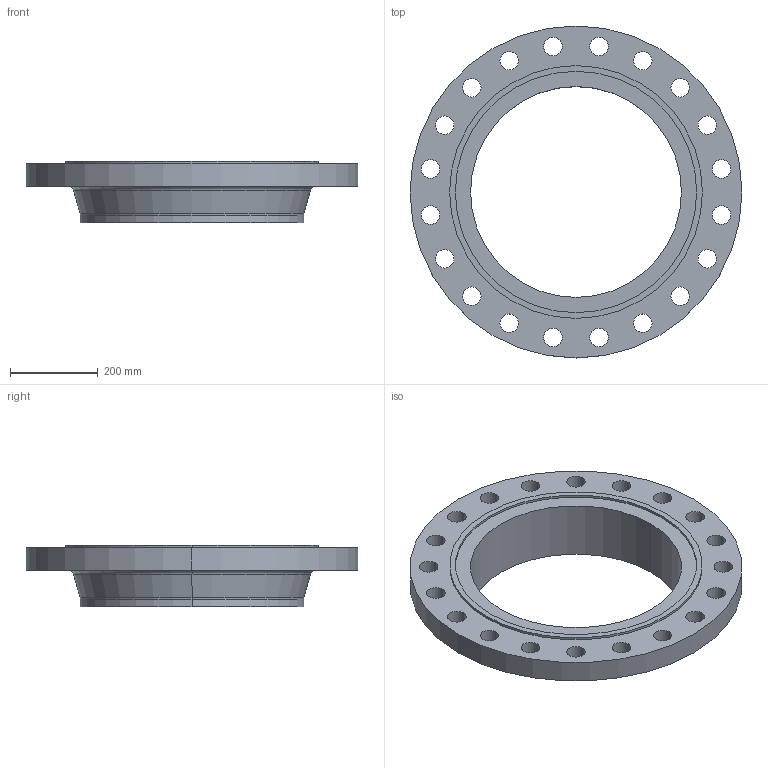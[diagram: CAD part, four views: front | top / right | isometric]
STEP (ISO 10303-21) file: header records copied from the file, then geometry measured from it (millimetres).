
FILE_DESCRIPTION (( 'STEP AP214' ), '1' );
FILE_NAME ('PN40 DN500 Type 11 - Type C Face.STEP', '2018-12-29T04:30:15', ( '' ), ( '' ), 'SwSTEP 2.0', 'SolidWorks 2019', '' );
FILE_SCHEMA (( 'AUTOMOTIVE_DESIGN' ));
Length unit declared in the file: millimetre
Products named in the file (1): PN40 DN500 Type 11 - Type C Face
Bounding box: 755 x 755 x 140 mm (x, y, z)
Volume: 15250140.8 mm3; surface area: 1064854.8 mm2
Topology: 1 solids, 1 shells, 61 faces, 162 edges, 106 vertices
Faces by surface type: cylinder 50, plane 5, torus 4, cone 2
Entity records: 2076 total; most frequent: DIRECTION 396, CARTESIAN_POINT 330, ORIENTED_EDGE 324, AXIS2_PLACEMENT_3D 172, EDGE_CURVE 162, CIRCLE 110, VERTEX_POINT 106, EDGE_LOOP 106
